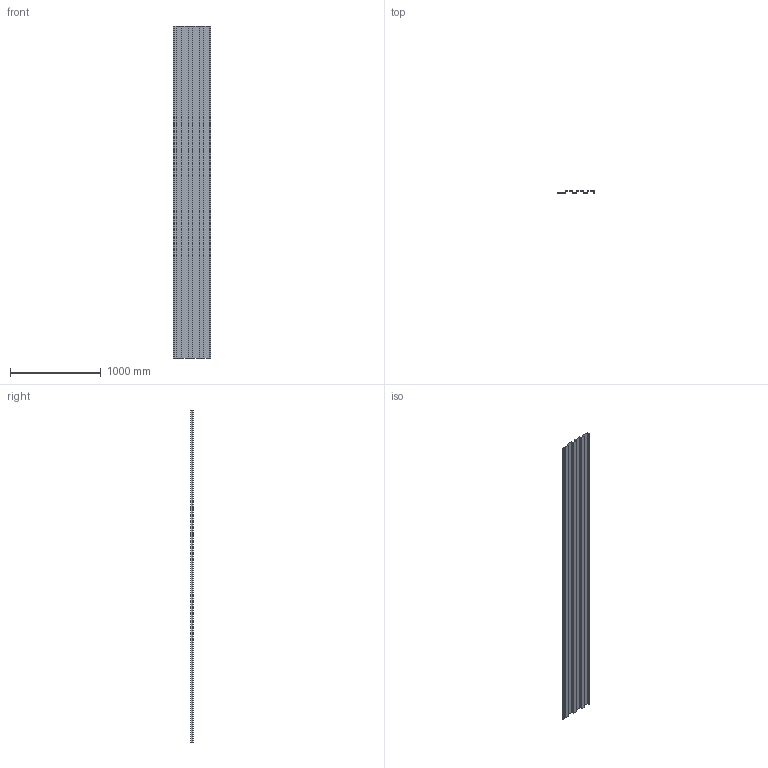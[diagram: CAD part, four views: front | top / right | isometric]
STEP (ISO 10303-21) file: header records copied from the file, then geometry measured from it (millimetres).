
FILE_DESCRIPTION(/* description */ (''),/* implementation_level */ '2;1');
FILE_NAME(/* name */ 'SPC1.1.stp',/* time_stamp */ '2025-02-27T13:40:55-05:00',/* author */ ('samuel.gauthier'),/* organization */ (''),/* preprocessor_version */ 'ST-DEVELOPER v20',/* originating_system */ 'Autodesk Inventor 2025',/* authorisation */ '');
FILE_SCHEMA (('AUTOMOTIVE_DESIGN { 1 0 10303 214 3 1 1 }'));
Length unit declared in the file: inch
Products named in the file (1): SPC1.1
Bounding box: 411.3 x 25.4 x 3657.6 mm (x, y, z)
Volume: 1132085.6 mm3; surface area: 4443297.9 mm2
Topology: 1 solids, 1 shells, 68 faces, 198 edges, 132 vertices
Faces by surface type: plane 40, cylinder 28
Entity records: 2303 total; most frequent: CARTESIAN_POINT 399, ORIENTED_EDGE 396, DIRECTION 392, EDGE_CURVE 198, LINE 142, VECTOR 142, VERTEX_POINT 132, AXIS2_PLACEMENT_3D 125
